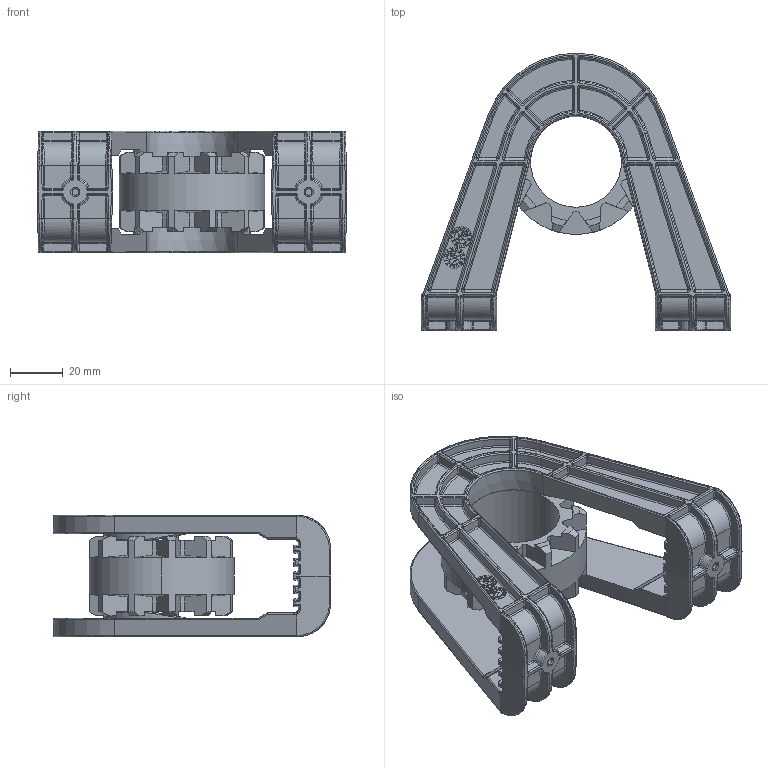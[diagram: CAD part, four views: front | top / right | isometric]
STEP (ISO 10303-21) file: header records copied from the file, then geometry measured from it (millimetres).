
FILE_DESCRIPTION (( 'STEP AP214' ), '1' );
FILE_NAME ('Getriebe_EZD_10149240.STEP', '2018-12-12T12:16:11', ( '' ), ( '' ), 'SwSTEP 2.0', 'SolidWorks 2018', '' );
FILE_SCHEMA (( 'AUTOMOTIVE_DESIGN' ));
Length unit declared in the file: millimetre
Products named in the file (3): Getriebe_EZD_10114525_Ohne Inhalt; Getriebe_EZD_10149240; Gehäuse_10143067_Standard
Assembly tree (2 placements, depth 2):
  Getriebe_EZD_10149240
    Gehäuse_10143067_Standard
    Getriebe_EZD_10114525_Ohne Inhalt
Bounding box: 117.2 x 105.07 x 46.2 mm (x, y, z)
Volume: 92945.9 mm3; surface area: 52251 mm2
Topology: 2 solids, 2 shells, 1940 faces, 4818 edges, 2925 vertices
Faces by surface type: plane 589, cylinder 462, torus 370, bspline 265, cone 198, sphere 56
Entity records: 66193 total; most frequent: CARTESIAN_POINT 21559, ORIENTED_EDGE 9588, DIRECTION 9243, EDGE_CURVE 4794, AXIS2_PLACEMENT_3D 3517, VERTEX_POINT 2925, LINE 2209, VECTOR 2209
